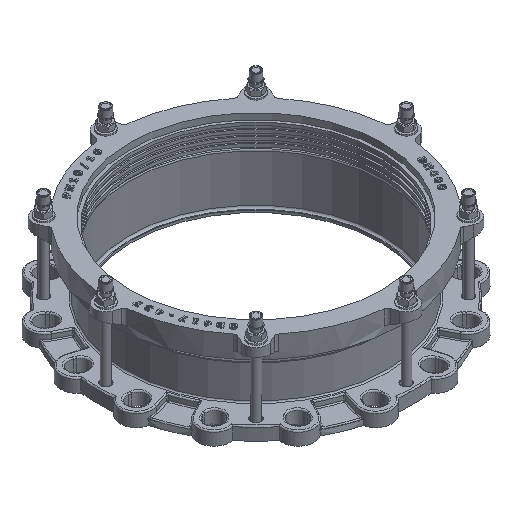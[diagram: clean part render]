
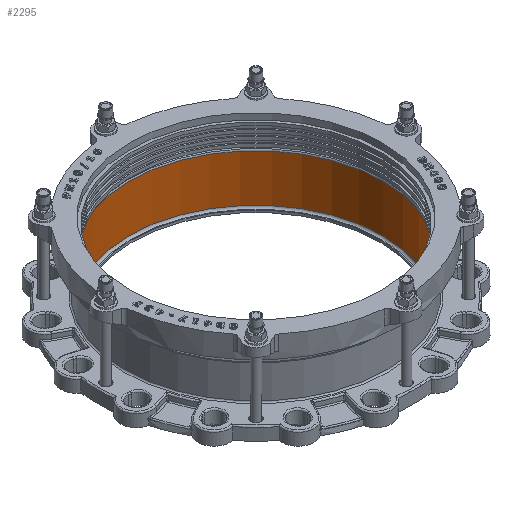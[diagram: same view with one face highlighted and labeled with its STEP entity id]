
A CAD part, isometric view. The second image highlights one B-rep face of the part: STEP entity #2295.
In plain terms, the highlighted cylindrical face has radius 218.5 mm (diameter 437 mm), a full revolution.
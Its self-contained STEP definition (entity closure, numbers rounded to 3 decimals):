
#2295=ADVANCED_FACE('',(#15059,#15061),#15063,.F.);
#15059=FACE_OUTER_BOUND('',#15060,.T.);
#15060=EDGE_LOOP('',(#22083));
#15061=FACE_OUTER_BOUND('',#15062,.T.);
#15062=EDGE_LOOP('',(#22084));
#15063=CYLINDRICAL_SURFACE('',#15064,218.5);
#15064=AXIS2_PLACEMENT_3D('',#15065,#15066,#15067);
#15065=CARTESIAN_POINT('',(0.,0.,4.));
#15066=DIRECTION('',(0.,0.,1.));
#15067=DIRECTION('',(-1.,0.,0.));
#22083=ORIENTED_EDGE('',*,*,#27135,.F.);
#22084=ORIENTED_EDGE('',*,*,#27134,.T.);
#27134=EDGE_CURVE('',#31003,#31003,#31004,.F.);
#27135=EDGE_CURVE('',#31005,#31005,#31006,.T.);
#31003=VERTEX_POINT('',#45594);
#31004=CIRCLE('',#45595,218.5);
#31005=VERTEX_POINT('',#45599);
#31006=CIRCLE('',#45600,218.5);
#45594=CARTESIAN_POINT('',(0.,218.5,7.5));
#45595=AXIS2_PLACEMENT_3D('',#45596,#45597,#45598);
#45596=CARTESIAN_POINT('',(0.,0.,7.5));
#45597=DIRECTION('',(0.,0.,1.));
#45598=DIRECTION('',(0.,1.,0.));
#45599=CARTESIAN_POINT('',(0.,218.5,88.75));
#45600=AXIS2_PLACEMENT_3D('',#45601,#45602,#45603);
#45601=CARTESIAN_POINT('',(0.,0.,88.75));
#45602=DIRECTION('',(0.,0.,-1.));
#45603=DIRECTION('',(0.,1.,0.));
